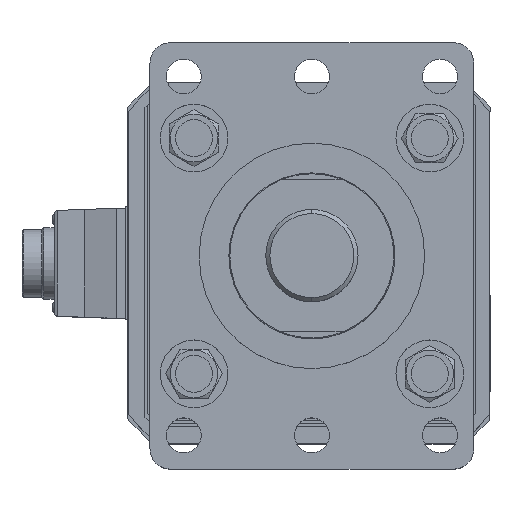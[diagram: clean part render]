
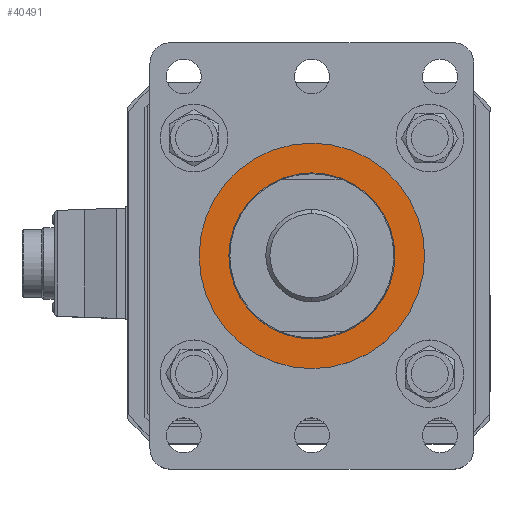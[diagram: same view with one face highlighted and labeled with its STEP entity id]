
A CAD part, top view. The second image highlights one B-rep face of the part: STEP entity #40491.
In plain terms, the highlighted planar face has unit normal (0, 0, 1).
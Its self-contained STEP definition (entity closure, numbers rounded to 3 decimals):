
#132 = CARTESIAN_POINT ( 'NONE',  ( 20937.73, 4407.642, 46. ) ) ;
#1127 = DIRECTION ( 'NONE',  ( 0., 0., 1. ) ) ;
#1465 = EDGE_CURVE ( 'NONE', #31405, #39489, #11347, .T. ) ;
#1822 = VERTEX_POINT ( 'NONE', #37801 ) ;
#1835 = ORIENTED_EDGE ( 'NONE', *, *, #23608, .T. ) ;
#3539 = ORIENTED_EDGE ( 'NONE', *, *, #34562, .T. ) ;
#4913 = DIRECTION ( 'NONE',  ( 0., 0., 1. ) ) ;
#6277 = PLANE ( 'NONE',  #27430 ) ;
#7136 = EDGE_LOOP ( 'NONE', ( #12348, #31704 ) ) ;
#7287 = CARTESIAN_POINT ( 'NONE',  ( 21018.73, 4407.642, 46. ) ) ;
#7515 = DIRECTION ( 'NONE',  ( 0., 0., -1. ) ) ;
#9454 = FACE_BOUND ( 'NONE', #7136, .T. ) ;
#10037 = CARTESIAN_POINT ( 'NONE',  ( 20978.23, 4407.642, 46. ) ) ;
#10461 = AXIS2_PLACEMENT_3D ( 'NONE', #36682, #7515, #14260 ) ;
#11347 = CIRCLE ( 'NONE', #35001, 40.5 ) ;
#12348 = ORIENTED_EDGE ( 'NONE', *, *, #39551, .T. ) ;
#13834 = CIRCLE ( 'NONE', #10461, 40.5 ) ;
#14260 = DIRECTION ( 'NONE',  ( -1., 0., 0. ) ) ;
#14550 = CIRCLE ( 'NONE', #23334, 55. ) ;
#15929 = CIRCLE ( 'NONE', #35535, 55. ) ;
#17164 = CARTESIAN_POINT ( 'NONE',  ( 20978.23, 4407.642, 46. ) ) ;
#18467 = EDGE_LOOP ( 'NONE', ( #3539, #1835 ) ) ;
#20173 = DIRECTION ( 'NONE',  ( 0., 0., -1. ) ) ;
#20991 = CARTESIAN_POINT ( 'NONE',  ( 20978.23, 4407.642, 46. ) ) ;
#21532 = FACE_OUTER_BOUND ( 'NONE', #18467, .T. ) ;
#23334 = AXIS2_PLACEMENT_3D ( 'NONE', #17164, #1127, #30952 ) ;
#23608 = EDGE_CURVE ( 'NONE', #1822, #40856, #15929, .T. ) ;
#24220 = CARTESIAN_POINT ( 'NONE',  ( 21033.23, 4407.642, 46. ) ) ;
#25522 = DIRECTION ( 'NONE',  ( 0., 0., 1. ) ) ;
#27430 = AXIS2_PLACEMENT_3D ( 'NONE', #37994, #25522, #34439 ) ;
#29402 = DIRECTION ( 'NONE',  ( 1., 0., 0. ) ) ;
#30952 = DIRECTION ( 'NONE',  ( 1., 0., 0. ) ) ;
#31405 = VERTEX_POINT ( 'NONE', #7287 ) ;
#31704 = ORIENTED_EDGE ( 'NONE', *, *, #1465, .T. ) ;
#34439 = DIRECTION ( 'NONE',  ( 1., 0., 0. ) ) ;
#34562 = EDGE_CURVE ( 'NONE', #40856, #1822, #14550, .T. ) ;
#35001 = AXIS2_PLACEMENT_3D ( 'NONE', #10037, #20173, #35835 ) ;
#35535 = AXIS2_PLACEMENT_3D ( 'NONE', #20991, #4913, #29402 ) ;
#35835 = DIRECTION ( 'NONE',  ( -1., 0., 0. ) ) ;
#36682 = CARTESIAN_POINT ( 'NONE',  ( 20978.23, 4407.642, 46. ) ) ;
#37801 = CARTESIAN_POINT ( 'NONE',  ( 20923.23, 4407.642, 46. ) ) ;
#37994 = CARTESIAN_POINT ( 'NONE',  ( 0., 0., 46. ) ) ;
#39489 = VERTEX_POINT ( 'NONE', #132 ) ;
#39551 = EDGE_CURVE ( 'NONE', #39489, #31405, #13834, .T. ) ;
#40491 = ADVANCED_FACE ( 'NONE', ( #9454, #21532 ), #6277, .T. ) ;
#40856 = VERTEX_POINT ( 'NONE', #24220 ) ;
